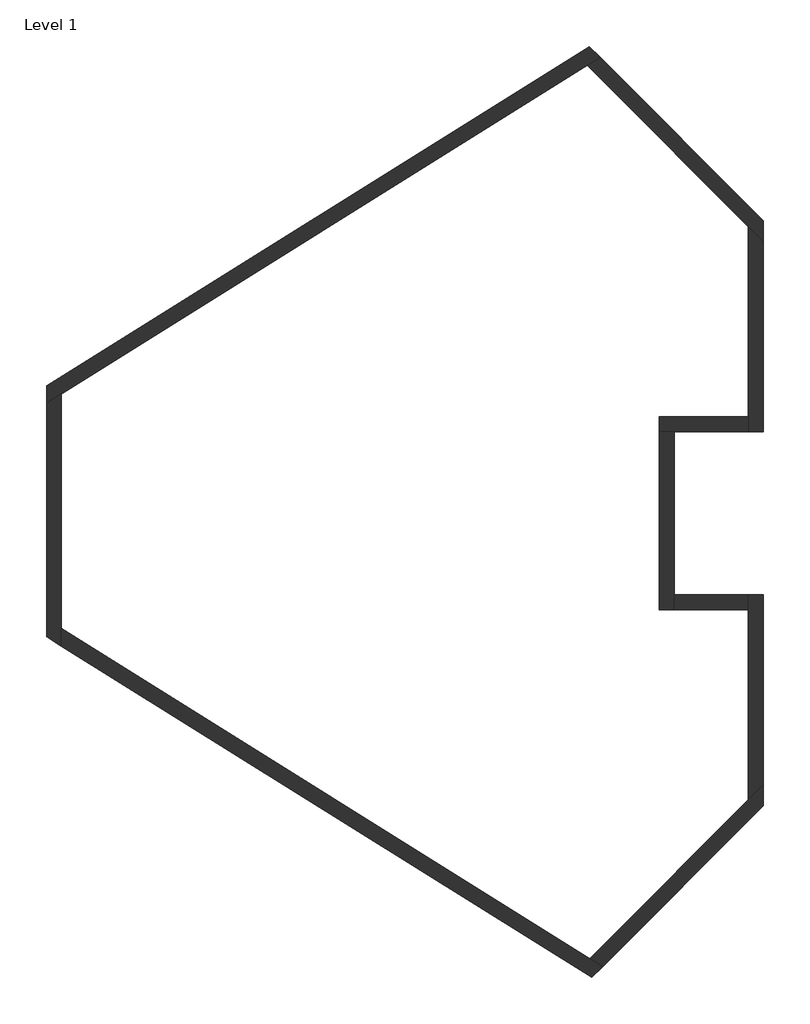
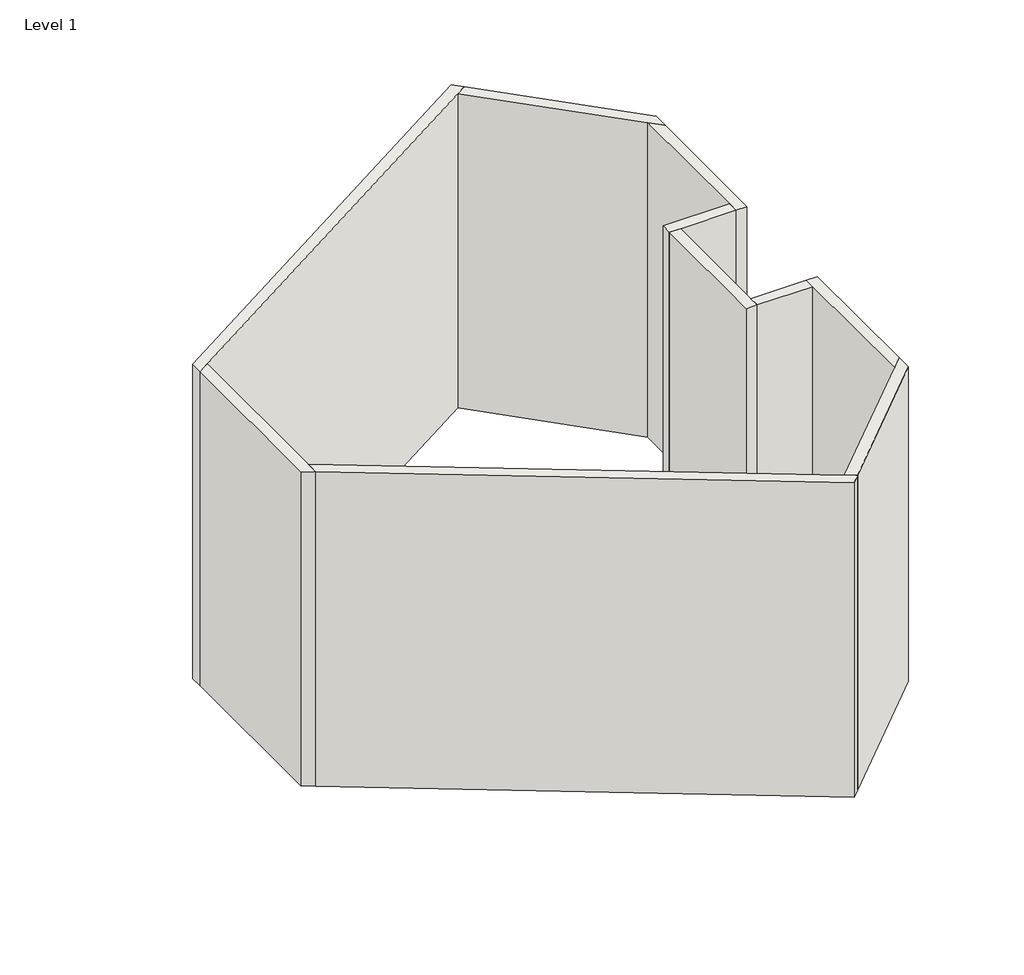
# One storey: 11 walls.
"""IFC4 building model written with IfcOpenShell, lengths in millimetres."""

from ifc_helpers import new_model, si_unit, origin, origin_with_axes, place, context, project, spatial, polyline, outline, extrude, faceted_brep, element, save

model = new_model("IFC4")

# Units and contexts
model_context = context("Model", 3, world=origin())
ifc_project = project(units=[si_unit("LENGTHUNIT", "METRE", prefix="MILLI")], contexts=[model_context])

# Site, building, storey
site = spatial("IfcSite", under=ifc_project)
building = spatial("IfcBuilding", under=site)
storey = spatial("IfcBuildingStorey", under=building, Name="Level 1", Elevation=0.0)

# Walls
placement = place(None, origin())
element("IfcWall", 1, ObjectType="Generic - 8\"", at=placement, inside=storey, context=model_context, shape_type="Brep", body=[
    faceted_brep([(-12207.8614241, 7403.9395877, 0.0), (-12004.6614241, 7530.9130401, 0.0), (-4812.9787862, 12024.7751091, 0.0), (-4636.1226005, 12135.2871193, 0.0), (-4636.1226005, 12135.2871193, 6096.0), (-4812.9787862, 12024.7751091, 6096.0), (-12004.6614241, 7530.9130401, 6096.0), (-12207.8614241, 7403.9395877, 6096.0), (-12207.8614241, 7643.5486393, 0.0), (-12207.8614241, 7643.5486393, 6096.0), (-4783.5861804, 12282.7506992, 6096.0), (-4783.5861804, 12282.7506992, 0.0)], [[[0, 1, 2, 3, 4, 5, 6, 7]], [[8, 9, 10, 11]], [[3, 2, 1, 0, 8, 11]], [[7, 6, 5, 4, 10, 9]], [[0, 7, 9, 8]], [[4, 3, 11, 10]]]),
])
element("IfcWall", 2, ObjectType="Generic - 8\"", at=placement, inside=storey, context=model_context, shape_type="Brep", body=[
    faceted_brep([(-4812.9787862, 12024.7751091, 0.0), (-2606.6614241, 9818.457747, 0.0), (-2403.4614241, 9615.257747, 0.0), (-2403.4614241, 9615.257747, 6096.0), (-2606.6614241, 9818.457747, 6096.0), (-4812.9787862, 12024.7751091, 6096.0), (-4636.1226005, 12135.2871193, 0.0), (-4636.1226005, 12135.2871193, 6096.0), (-2403.4614241, 9902.6259428, 6096.0), (-2403.4614241, 9902.6259428, 0.0)], [[[0, 1, 2, 3, 4, 5]], [[6, 7, 8, 9]], [[2, 1, 0, 6, 9]], [[5, 4, 3, 8, 7]], [[3, 2, 9, 8]], [[0, 5, 7, 6]]]),
])
element("IfcWall", 3, ObjectType="Generic - 8\"", at=placement, inside=storey, context=model_context, shape_type="Brep", body=[
    faceted_brep([(-2606.6614241, 9818.457747, 0.0), (-2606.6614241, 7218.9418449, 0.0), (-2606.6614241, 7015.7418449, 0.0), (-2606.6614241, 7015.7418449, 6096.0), (-2606.6614241, 7218.9418449, 6096.0), (-2606.6614241, 9818.457747, 6096.0), (-2403.4614241, 9615.257747, 0.0), (-2403.4614241, 9615.257747, 6096.0), (-2403.4614241, 7015.7418449, 6096.0), (-2403.4614241, 7015.7418449, 0.0)], [[[0, 1, 2, 3, 4, 5]], [[6, 7, 8, 9]], [[2, 1, 0, 6, 9]], [[5, 4, 3, 8, 7]], [[0, 5, 7, 6]], [[3, 2, 9, 8]]]),
])
element("IfcWall", 4, ObjectType="Generic - 8\"", at=placement, inside=storey, context=model_context, shape_type="Brep", body=[
    faceted_brep([(-2606.6614241, 7218.9418449, 0.0), (-3825.8614241, 7218.9418449, 0.0), (-3825.8614241, 7218.9418449, 6096.0), (-2606.6614241, 7218.9418449, 6096.0), (-2606.6614241, 7015.7418449, 0.0), (-2606.6614241, 7015.7418449, 6096.0), (-3622.6614241, 7015.7418449, 6096.0), (-3825.8614241, 7015.7418449, 6096.0), (-3825.8614241, 7015.7418449, 0.0), (-3622.6614241, 7015.7418449, 0.0)], [[[0, 1, 2, 3]], [[4, 5, 6, 7, 8, 9]], [[1, 0, 4, 9, 8]], [[3, 2, 7, 6, 5]], [[0, 3, 5, 4]], [[2, 1, 8, 7]]]),
])
element("IfcWall", 5, ObjectType="Generic - 8\"", at=placement, inside=storey, context=model_context, shape_type="Brep", body=[
    faceted_brep([(-3825.8614241, 7015.7418449, 0.0), (-3825.8614241, 4577.3418449, 0.0), (-3825.8614241, 4577.3418449, 6096.0), (-3825.8614241, 7015.7418449, 6096.0), (-3622.6614241, 7015.7418449, 0.0), (-3622.6614241, 7015.7418449, 6096.0), (-3622.6614241, 4780.5418449, 6096.0), (-3622.6614241, 4577.3418449, 6096.0), (-3622.6614241, 4577.3418449, 0.0), (-3622.6614241, 4780.5418449, 0.0)], [[[0, 1, 2, 3]], [[4, 5, 6, 7, 8, 9]], [[1, 0, 4, 9, 8]], [[3, 2, 7, 6, 5]], [[0, 3, 5, 4]], [[2, 1, 8, 7]]]),
])
element("IfcWall", 6, ObjectType="Generic - 8\"", at=placement, inside=storey, context=model_context, shape_type="SweptSolid", body=[
    extrude(outline(polyline([(-2606.6614241, 4577.3418449), (-3622.6614241, 4577.3418449), (-3622.6614241, 4780.5418449), (-2606.6614241, 4780.5418449), (-2606.6614241, 4577.3418449)])), origin_with_axes(), (0.0, 0.0, 1.0), 6096.0),
])
element("IfcWall", 7, ObjectType="Generic - 8\"", at=placement, inside=storey, context=model_context, shape_type="Brep", body=[
    faceted_brep([(-4601.4627064, -304.3435354, 0.0), (-2403.4614241, 1893.657747, 0.0), (-2403.4614241, 1893.657747, 6096.0), (-4601.4627064, -304.3435354, 6096.0), (-4778.3188921, -193.8315252, 0.0), (-4778.3188921, -193.8315252, 6096.0), (-2606.6614241, 1977.8259428, 6096.0), (-2403.4614241, 2181.0259428, 6096.0), (-2403.4614241, 2181.0259428, 0.0), (-2606.6614241, 1977.8259428, 0.0)], [[[0, 1, 2, 3]], [[4, 5, 6, 7, 8, 9]], [[1, 0, 4, 9, 8]], [[3, 2, 7, 6, 5]], [[2, 1, 8, 7]], [[0, 3, 5, 4]]]),
])
element("IfcWall", 8, ObjectType="Generic - 8\"", at=placement, inside=storey, context=model_context, shape_type="Brep", body=[
    faceted_brep([(-2403.4614241, 2181.0259428, 0.0), (-2403.4614241, 4780.5418449, 0.0), (-2403.4614241, 4780.5418449, 6096.0), (-2403.4614241, 2181.0259428, 6096.0), (-2606.6614241, 1977.8259428, 0.0), (-2606.6614241, 1977.8259428, 6096.0), (-2606.6614241, 4577.3418449, 6096.0), (-2606.6614241, 4780.5418449, 6096.0), (-2606.6614241, 4780.5418449, 0.0), (-2606.6614241, 4577.3418449, 0.0)], [[[0, 1, 2, 3]], [[4, 5, 6, 7, 8, 9]], [[1, 0, 4, 9, 8]], [[3, 2, 7, 6, 5]], [[0, 3, 5, 4]], [[2, 1, 8, 7]]]),
])
element("IfcWall", 9, ObjectType="Generic - 8\"", at=placement, inside=storey, context=model_context, shape_type="SweptSolid", body=[
    extrude(outline(polyline([(-3622.6614241, 4780.5418449), (-2606.6614241, 4780.5418449), (-2606.6614241, 4577.3418449), (-3622.6614241, 4577.3418449), (-3622.6614241, 4780.5418449)])), origin_with_axes(), (0.0, 0.0, 1.0), 6096.0),
])
element("IfcWall", 10, ObjectType="Generic - 8\"", at=placement, inside=storey, context=model_context, shape_type="Brep", body=[
    faceted_brep([(-12207.8614241, 7403.9395877, 0.0), (-12207.8614241, 4209.0528501, 0.0), (-12207.8614241, 4209.0528501, 6096.0), (-12207.8614241, 7403.9395877, 6096.0), (-12004.6614241, 4082.0793978, 0.0), (-12004.6614241, 4321.6884494, 0.0), (-12004.6614241, 7530.9130401, 0.0), (-12004.6614241, 7530.9130401, 6096.0), (-12004.6614241, 4321.6884494, 6096.0), (-12004.6614241, 4082.0793978, 6096.0)], [[[0, 1, 2, 3]], [[4, 5, 6, 7, 8, 9]], [[1, 0, 6, 5, 4]], [[3, 2, 9, 8, 7]], [[0, 3, 7, 6]], [[2, 1, 4, 9]]]),
])
element("IfcWall", 11, ObjectType="Generic - 8\"", at=placement, inside=storey, context=model_context, shape_type="Brep", body=[
    faceted_brep([(-12004.6614241, 4082.0793978, 0.0), (-4748.9262863, -451.8071153, 0.0), (-4748.9262863, -451.8071153, 6096.0), (-12004.6614241, 4082.0793978, 6096.0), (-12004.6614241, 4321.6884494, 0.0), (-12004.6614241, 4321.6884494, 6096.0), (-4778.3188921, -193.8315252, 6096.0), (-4601.4627064, -304.3435354, 6096.0), (-4601.4627064, -304.3435354, 0.0), (-4778.3188921, -193.8315252, 0.0)], [[[0, 1, 2, 3]], [[4, 5, 6, 7, 8, 9]], [[1, 0, 4, 9, 8]], [[3, 2, 7, 6, 5]], [[0, 3, 5, 4]], [[2, 1, 8, 7]]]),
])

save(model, "model.ifc")
